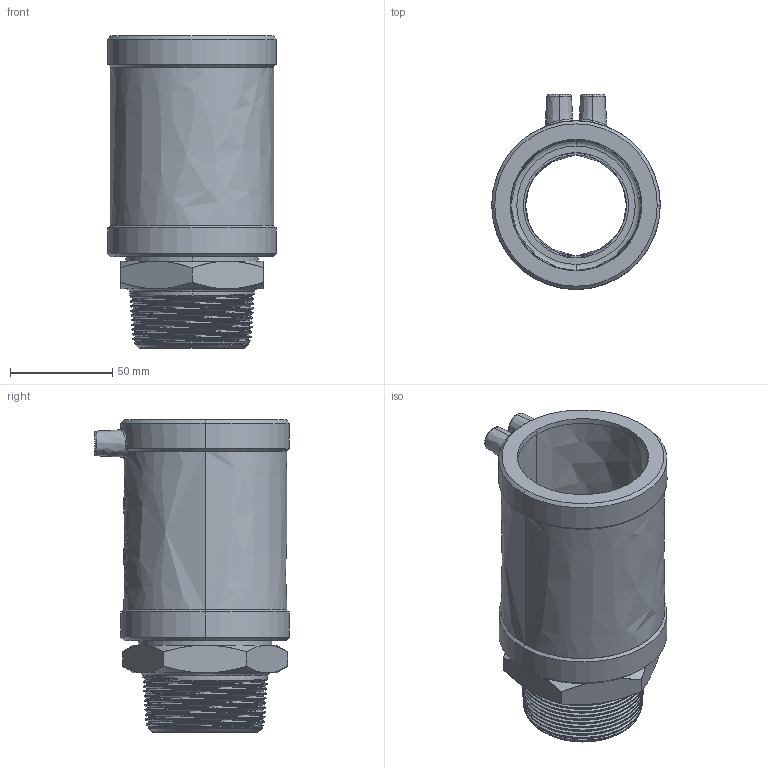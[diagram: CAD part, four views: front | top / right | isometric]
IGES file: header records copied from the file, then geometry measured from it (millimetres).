
Start section:  PTC IGES file: ustn_d63_2_01.igs
Global section: file name: ustn_d63_2_01.igs; native system: Pro/ENGINEER by Parametric Technology Corporation; preprocessor: 2011490; author: mtunjic; organization: Unknown; date: 20130823.110532; units: millimetre
Bounding box: 82.5 x 95.45 x 152.8 mm (x, y, z)
Surface area: 78280.9 mm2 (no closed solid volume)
Topology: 0 solids, 0 shells, 255 faces, 1294 edges, 1294 vertices
Faces by surface type: bspline 255
